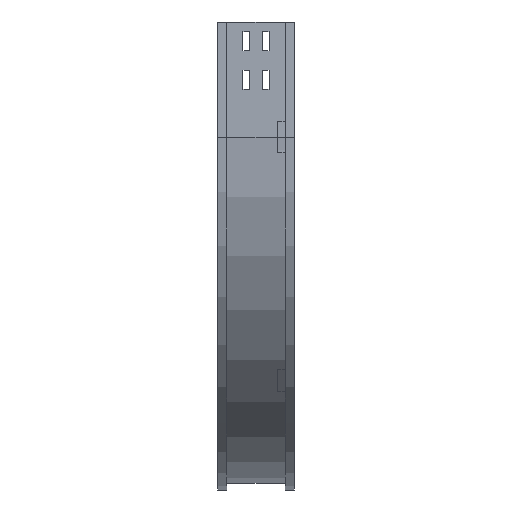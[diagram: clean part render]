
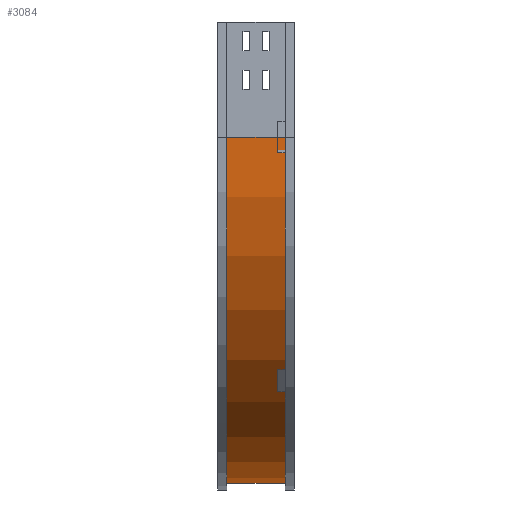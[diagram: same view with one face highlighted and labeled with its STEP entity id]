
A CAD part, left-side view. The second image highlights one B-rep face of the part: STEP entity #3084.
In plain terms, the highlighted cylindrical face has radius 450 mm (diameter 900 mm), a partial arc.
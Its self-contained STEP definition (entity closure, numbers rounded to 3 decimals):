
#44 = DIRECTION ( 'NONE',  ( 0., -1., 0. ) ) ;
#591 = DIRECTION ( 'NONE',  ( 0., -1., 0. ) ) ;
#594 = EDGE_CURVE ( 'NONE', #1530, #2555, #1201, .T. ) ;
#968 = FACE_OUTER_BOUND ( 'NONE', #2087, .T. ) ;
#1004 = EDGE_CURVE ( 'NONE', #1660, #2555, #2176, .T. ) ;
#1115 = DIRECTION ( 'NONE',  ( 0., -1., 0. ) ) ;
#1133 = AXIS2_PLACEMENT_3D ( 'NONE', #2696, #591, #1983 ) ;
#1191 = CARTESIAN_POINT ( 'NONE',  ( 9., 12., -150. ) ) ;
#1201 = CIRCLE ( 'NONE', #1271, 450. ) ;
#1271 = AXIS2_PLACEMENT_3D ( 'NONE', #2182, #1115, #3146 ) ;
#1386 = VERTEX_POINT ( 'NONE', #3952 ) ;
#1473 = EDGE_CURVE ( 'NONE', #1386, #1530, #1539, .T. ) ;
#1530 = VERTEX_POINT ( 'NONE', #1191 ) ;
#1539 = LINE ( 'NONE', #2565, #2081 ) ;
#1660 = VERTEX_POINT ( 'NONE', #1961 ) ;
#1799 = CARTESIAN_POINT ( 'NONE',  ( 459., 12., -600. ) ) ;
#1961 = CARTESIAN_POINT ( 'NONE',  ( 459., 88., -600. ) ) ;
#1983 = DIRECTION ( 'NONE',  ( 0., 0., -1. ) ) ;
#2081 = VECTOR ( 'NONE', #2497, 1000. ) ;
#2087 = EDGE_LOOP ( 'NONE', ( #3421, #2406, #3987, #2251 ) ) ;
#2103 = DIRECTION ( 'NONE',  ( -1., 0., 0. ) ) ;
#2157 = CIRCLE ( 'NONE', #2365, 450. ) ;
#2176 = LINE ( 'NONE', #1799, #4105 ) ;
#2182 = CARTESIAN_POINT ( 'NONE',  ( 459., 12., -150. ) ) ;
#2251 = ORIENTED_EDGE ( 'NONE', *, *, #1004, .T. ) ;
#2365 = AXIS2_PLACEMENT_3D ( 'NONE', #4432, #4091, #2103 ) ;
#2406 = ORIENTED_EDGE ( 'NONE', *, *, #1473, .F. ) ;
#2497 = DIRECTION ( 'NONE',  ( 0., -1., 0. ) ) ;
#2555 = VERTEX_POINT ( 'NONE', #3531 ) ;
#2565 = CARTESIAN_POINT ( 'NONE',  ( 9., 12., -150. ) ) ;
#2696 = CARTESIAN_POINT ( 'NONE',  ( 459., 0., -150. ) ) ;
#3084 = ADVANCED_FACE ( 'NONE', ( #968 ), #3711, .T. ) ;
#3146 = DIRECTION ( 'NONE',  ( -1., 0., 0. ) ) ;
#3421 = ORIENTED_EDGE ( 'NONE', *, *, #594, .F. ) ;
#3531 = CARTESIAN_POINT ( 'NONE',  ( 459., 12., -600. ) ) ;
#3711 = CYLINDRICAL_SURFACE ( 'NONE', #1133, 450. ) ;
#3952 = CARTESIAN_POINT ( 'NONE',  ( 9., 88., -150. ) ) ;
#3987 = ORIENTED_EDGE ( 'NONE', *, *, #4028, .T. ) ;
#4028 = EDGE_CURVE ( 'NONE', #1386, #1660, #2157, .T. ) ;
#4091 = DIRECTION ( 'NONE',  ( 0., -1., 0. ) ) ;
#4105 = VECTOR ( 'NONE', #44, 1000. ) ;
#4432 = CARTESIAN_POINT ( 'NONE',  ( 459., 88., -150. ) ) ;
